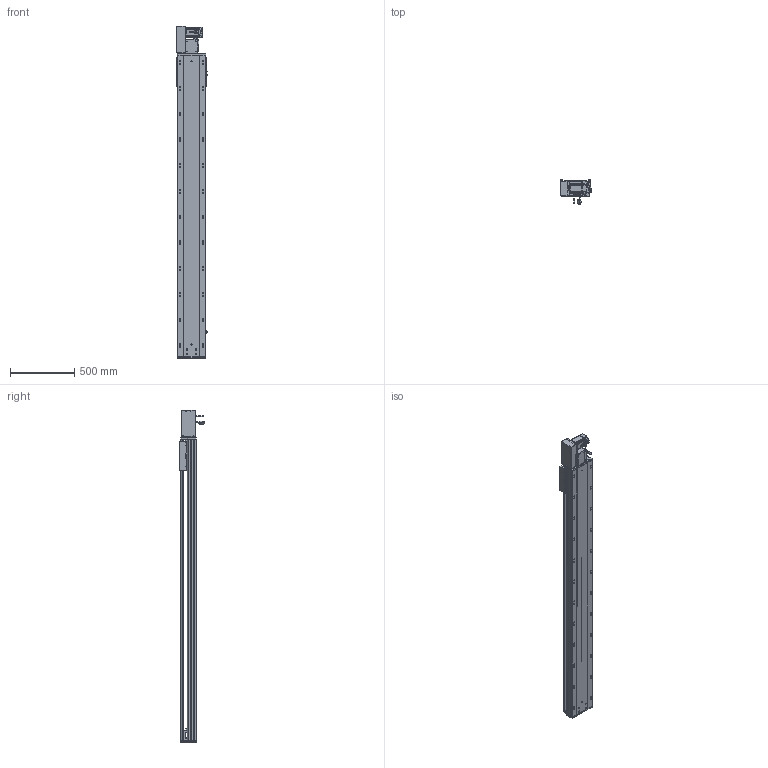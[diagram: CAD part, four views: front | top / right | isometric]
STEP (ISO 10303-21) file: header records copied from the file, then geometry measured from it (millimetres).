
FILE_DESCRIPTION (( 'STEP AP203' ), '1' );
FILE_NAME ('RY220-T-300-LK.SLDASM_2000.step', '2022-07-25T08:15:13', ( '' ), ( '' ), 'SwSTEP 2.0', 'SolidWorks 2016', '' );
FILE_SCHEMA (( 'CONFIG_CONTROL_DESIGN' ));
Length unit declared in the file: millimetre
Products named in the file (14): RY220翋肮祭謫裔啣; 110A-T-肮祭謫釱傷裔; RY220-T-蛌殏萇儂假蚾啣(750W); 滅袉蝶18-15; RY220翋肮祭謫釱; RY220-T菁釱-300_2000; RY220-T-湍謫欶(鍼踢); RY220圉猾敕々湍臏賑輸; RY220-T-300-LK.SLDASM_2000; 怢湛750W_ECMA-CX0807ES; RY220-同步轮副支撑座6304×2; RY220-俋离672覜茼んえ; RY220-T-300-奻裔啣_2000; 覜茼ん672
Assembly tree (18 placements, depth 2):
  RY220-T-300-LK.SLDASM_2000
    RY220-T菁釱-300_2000
    RY220翋肮祭謫釱
    覜茼ん672  x3
    RY220圉猾敕々湍臏賑輸
    RY220-T-300-奻裔啣_2000
    RY220-俋离672覜茼んえ
    滅袉蝶18-15  x3
    RY220翋肮祭謫裔啣  x2
    110A-T-肮祭謫釱傷裔
    怢湛750W_ECMA-CX0807ES
    RY220-T-湍謫欶(鍼踢)
    RY220-T-蛌殏萇儂假蚾啣(750W)
    RY220-同步轮副支撑座6304×2
Bounding box: 239.7 x 198.77 x 2579 mm (x, y, z)
Volume: 18733971.1 mm3; surface area: 5689160.3 mm2
Topology: 19 solids, 19 shells, 2822 faces, 7795 edges, 4910 vertices
Faces by surface type: cylinder 1358, plane 1069, cone 313, bspline 56, sphere 16, torus 10
Entity records: 93955 total; most frequent: CARTESIAN_POINT 26627, ORIENTED_EDGE 13946, DIRECTION 13336, EDGE_CURVE 6973, AXIS2_PLACEMENT_3D 4768, VERTEX_POINT 4534, LINE 3800, VECTOR 3800
